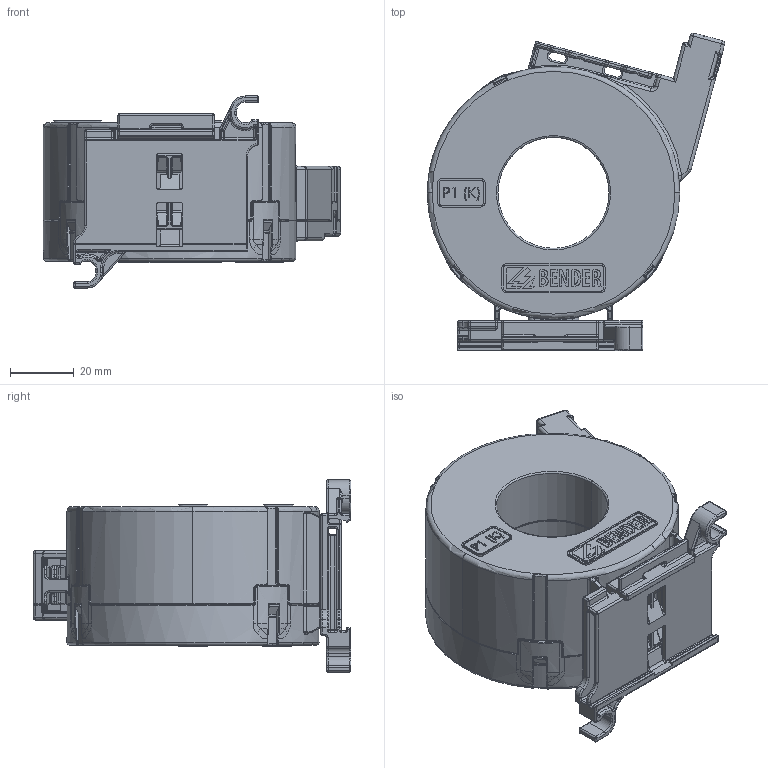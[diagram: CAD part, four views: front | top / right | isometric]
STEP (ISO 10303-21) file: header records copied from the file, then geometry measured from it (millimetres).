
FILE_DESCRIPTION (( 'STEP AP214' ), '1' );
FILE_NAME ('CTBC35.STEP', '2019-04-12T05:22:46', ( 'Administrator' ), ( '' ), 'SwSTEP 2.0', 'SolidWorks 2019', '' );
FILE_SCHEMA (( 'AUTOMOTIVE_DESIGN' ));
Length unit declared in the file: millimetre
Products named in the file (1): CTBC35
Bounding box: 93.66 x 100.09 x 60.5 mm (x, y, z)
Volume: 53050.4 mm3; surface area: 71659.8 mm2
Topology: 1 solids, 5 shells, 4537 faces, 11296 edges, 6651 vertices
Faces by surface type: plane 1271, bspline 1258, cylinder 1231, torus 579, sphere 185, cone 13
Entity records: 222581 total; most frequent: CARTESIAN_POINT 74459, ORIENTED_EDGE 22034, DIRECTION 18292, EDGE_CURVE 11017, AXIS2_PLACEMENT_3D 6667, VERTEX_POINT 6625, VECTOR 4958, LINE 4958
